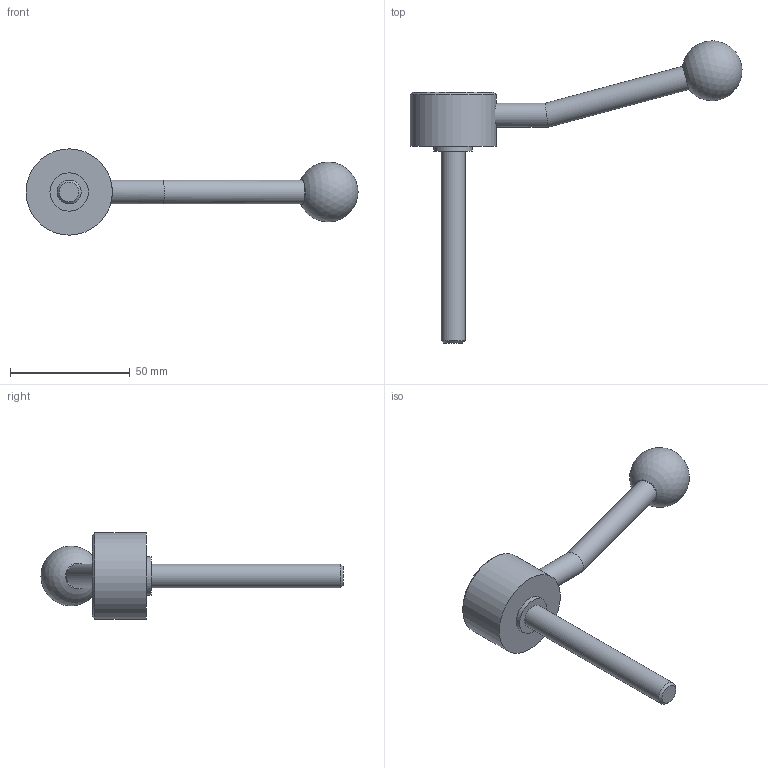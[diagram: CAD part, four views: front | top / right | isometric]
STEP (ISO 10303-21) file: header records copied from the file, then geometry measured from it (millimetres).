
FILE_DESCRIPTION( ( 'STEP AP203' ), '1' );
FILE_NAME( 'C:/Temp/Ganter_Step_05_03_2020/data/2_1/gn_125/gn_125_ms/gn_125_ms_e/Flat Adjustable Lever GN 125-36-M10-80-E.stp', '2020-03-05T11:00:59', ( 'License CC BY-ND 4.0' ), ( 'CADENAS' ), ' ', 'PARTsolutions', ' ' );
FILE_SCHEMA( ( 'CONFIG_CONTROL_DESIGN' ) );
Length unit declared in the file: millimetre
Products named in the file (1): _Flat Adjustable Lever GN 125-36-M10-80-E
Bounding box: 138.41 x 125.94 x 36 mm (x, y, z)
Volume: 43892.5 mm3; surface area: 11487.4 mm2
Topology: 1 solids, 1 shells, 15 faces, 25 edges, 16 vertices
Faces by surface type: cylinder 6, plane 6, cone 2, sphere 1
Full cylindrical faces by diameter (mm): 10 x3, 16 x1, 26 x1, 36 x1
Entity records: 412 total; most frequent: CARTESIAN_POINT 118, DIRECTION 58, AXIS2_PLACEMENT_3D 29, EDGE_LOOP 28, ORIENTED_EDGE 28, FACE_OUTER_BOUND 21, ADVANCED_FACE 15, VERTEX_POINT 15
